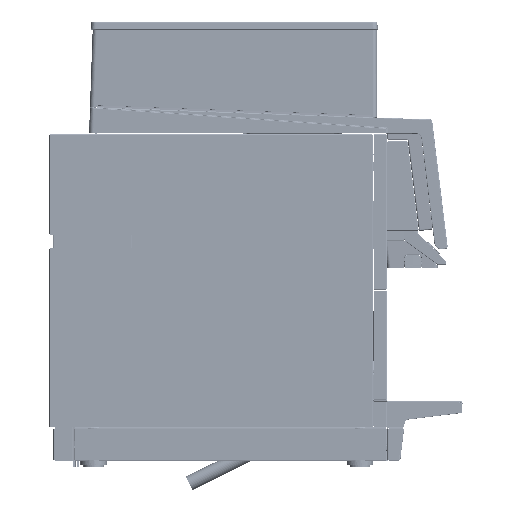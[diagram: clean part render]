
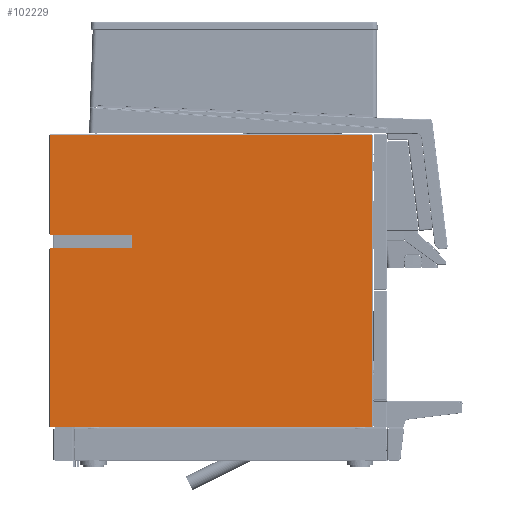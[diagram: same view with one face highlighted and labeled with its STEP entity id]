
A CAD part, left-side view. The second image highlights one B-rep face of the part: STEP entity #102229.
In plain terms, the highlighted planar face has unit normal (-1, 0, 0).
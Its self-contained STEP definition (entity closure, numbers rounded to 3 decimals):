
#9919=CIRCLE('',#120342,0.5);
#9920=CIRCLE('',#120343,0.5);
#25758=ORIENTED_EDGE('',*,*,#45993,.F.);
#25759=ORIENTED_EDGE('',*,*,#45953,.F.);
#25760=ORIENTED_EDGE('',*,*,#45955,.F.);
#25761=ORIENTED_EDGE('',*,*,#45973,.F.);
#25762=ORIENTED_EDGE('',*,*,#45971,.F.);
#25763=ORIENTED_EDGE('',*,*,#46137,.T.);
#25764=ORIENTED_EDGE('',*,*,#46058,.T.);
#25765=ORIENTED_EDGE('',*,*,#46138,.F.);
#25766=ORIENTED_EDGE('',*,*,#46139,.T.);
#25767=ORIENTED_EDGE('',*,*,#46140,.F.);
#25768=ORIENTED_EDGE('',*,*,#46141,.T.);
#25769=ORIENTED_EDGE('',*,*,#46142,.T.);
#45953=EDGE_CURVE('',#63478,#63474,#75975,.T.);
#45955=EDGE_CURVE('',#63480,#63478,#75976,.T.);
#45971=EDGE_CURVE('',#63494,#63492,#75983,.T.);
#45973=EDGE_CURVE('',#63492,#63480,#75984,.T.);
#45993=EDGE_CURVE('',#63474,#63510,#75993,.T.);
#46058=EDGE_CURVE('',#63574,#63572,#76045,.T.);
#46137=EDGE_CURVE('',#63494,#63574,#76109,.T.);
#46138=EDGE_CURVE('',#63641,#63572,#9919,.T.);
#46139=EDGE_CURVE('',#63641,#63642,#76110,.T.);
#46140=EDGE_CURVE('',#63643,#63642,#9920,.T.);
#46141=EDGE_CURVE('',#63643,#63644,#76111,.T.);
#46142=EDGE_CURVE('',#63644,#63510,#76112,.T.);
#63474=VERTEX_POINT('',#197923);
#63478=VERTEX_POINT('',#197930);
#63480=VERTEX_POINT('',#197935);
#63492=VERTEX_POINT('',#197964);
#63494=VERTEX_POINT('',#197968);
#63510=VERTEX_POINT('',#198009);
#63572=VERTEX_POINT('',#198146);
#63574=VERTEX_POINT('',#198149);
#63641=VERTEX_POINT('',#198304);
#63642=VERTEX_POINT('',#198306);
#63643=VERTEX_POINT('',#198308);
#63644=VERTEX_POINT('',#198310);
#75975=LINE('',#197931,#85698);
#75976=LINE('',#197936,#85699);
#75983=LINE('',#197969,#85706);
#75984=LINE('',#197973,#85707);
#75993=LINE('',#198012,#85716);
#76045=LINE('',#198148,#85768);
#76109=LINE('',#198302,#85832);
#76110=LINE('',#198305,#85833);
#76111=LINE('',#198309,#85834);
#76112=LINE('',#198311,#85835);
#85698=VECTOR('',#140164,1000.);
#85699=VECTOR('',#140169,1000.);
#85706=VECTOR('',#140200,1000.);
#85707=VECTOR('',#140205,1000.);
#85716=VECTOR('',#140244,1000.);
#85768=VECTOR('',#140338,1000.);
#85832=VECTOR('',#140448,1000.);
#85833=VECTOR('',#140451,1000.);
#85834=VECTOR('',#140454,1000.);
#85835=VECTOR('',#140455,1000.);
#93012=EDGE_LOOP('',(#25758,#25759,#25760,#25761,#25762,#25763,#25764,#25765,
#25766,#25767,#25768,#25769));
#97550=FACE_BOUND('',#93012,.T.);
#99672=PLANE('',#120341);
#102229=ADVANCED_FACE('',(#97550),#99672,.T.);
#120341=AXIS2_PLACEMENT_3D('',#198301,#140446,#140447);
#120342=AXIS2_PLACEMENT_3D('',#198303,#140449,#140450);
#120343=AXIS2_PLACEMENT_3D('',#198307,#140452,#140453);
#140164=DIRECTION('',(0.,1.,0.));
#140169=DIRECTION('',(0.,0.,-1.));
#140200=DIRECTION('',(0.,0.,1.));
#140205=DIRECTION('',(0.,-1.,0.));
#140244=DIRECTION('',(0.,0.,1.));
#140338=DIRECTION('',(0.,-1.,0.));
#140446=DIRECTION('',(-1.,0.,0.));
#140447=DIRECTION('',(0.,0.,1.));
#140448=DIRECTION('',(0.,0.,-1.));
#140449=DIRECTION('',(-1.,0.,0.));
#140450=DIRECTION('',(0.,-0.707,0.707));
#140451=DIRECTION('',(0.,0.,-1.));
#140452=DIRECTION('',(-1.,0.,0.));
#140453=DIRECTION('',(0.,-0.707,-0.707));
#140454=DIRECTION('',(0.,1.,0.));
#140455=DIRECTION('',(0.,0.,-1.));
#197923=CARTESIAN_POINT('',(-3.,5.8,1.2));
#197930=CARTESIAN_POINT('',(-3.,-461.8,1.2));
#197931=CARTESIAN_POINT('',(-3.,-461.8,1.2));
#197935=CARTESIAN_POINT('',(-3.,-461.8,424.8));
#197936=CARTESIAN_POINT('',(-3.,-461.8,424.8));
#197964=CARTESIAN_POINT('',(-3.,5.8,424.8));
#197968=CARTESIAN_POINT('',(-3.,5.8,281.2));
#197969=CARTESIAN_POINT('',(-3.,5.8,281.2));
#197973=CARTESIAN_POINT('',(-3.,5.8,424.8));
#198009=CARTESIAN_POINT('',(-3.,5.8,258.8));
#198012=CARTESIAN_POINT('',(-3.,5.8,1.2));
#198146=CARTESIAN_POINT('',(-3.,-112.5,280.));
#198148=CARTESIAN_POINT('',(-3.,5.8,280.));
#198149=CARTESIAN_POINT('',(-3.,5.8,280.));
#198301=CARTESIAN_POINT('',(-3.,-463.,0.));
#198302=CARTESIAN_POINT('',(-3.,5.8,281.2));
#198303=CARTESIAN_POINT('',(-3.,-112.5,279.5));
#198304=CARTESIAN_POINT('',(-3.,-113.,279.5));
#198305=CARTESIAN_POINT('',(-3.,-113.,279.5));
#198306=CARTESIAN_POINT('',(-3.,-113.,260.5));
#198307=CARTESIAN_POINT('',(-3.,-112.5,260.5));
#198308=CARTESIAN_POINT('',(-3.,-112.5,260.));
#198309=CARTESIAN_POINT('',(-3.,-112.5,260.));
#198310=CARTESIAN_POINT('',(-3.,5.8,260.));
#198311=CARTESIAN_POINT('',(-3.,5.8,260.));
